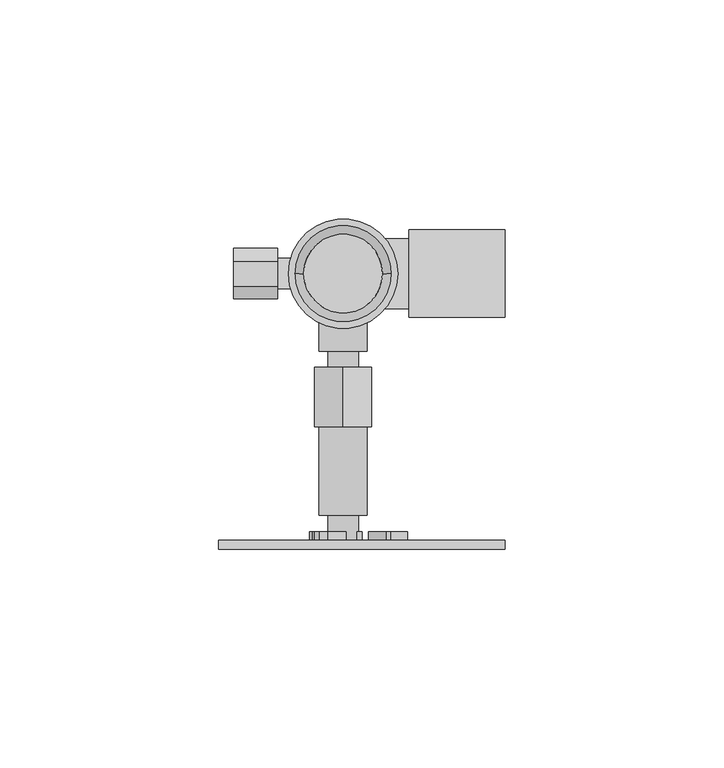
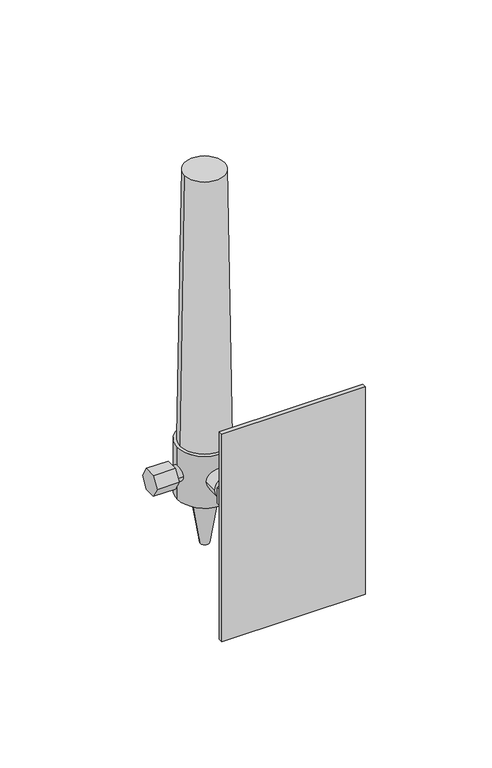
"""IFC4 building model written with IfcOpenShell, lengths in millimetres: proxy geometry, BIMHealth-Flowmeter_Air-LOD2A-v1 : BIMHealth-Flowmeter_Air-LOD2A-v1."""

import ifcopenshell
import ifcopenshell.guid

model = None  # the IFC model being written
_history = None  # IfcOwnerHistory: only IFC2X3 demands one
_inside = {}  # id of a spatial element -> (the spatial element, [elements in it])
_under = {}  # id of a project, library or spatial element -> (it, [spatial elements below it])
_declared = {}  # id of a project -> (the project, [libraries it declares])
_typed = {}  # id of a type object -> (the type object, [elements of that type])
_made_of = {}  # id of a material, layer set ... -> (it, [elements and type objects made of it])


def new_model(schema):
    """Start an empty IFC model of exactly this schema.

    Asked for "IFC4X3", IfcOpenShell would pick the latest addendum, in which some entities
    have other attributes; the version numbers below select the first issue.
    IFC2X3 requires an IfcOwnerHistory on every rooted entity: one is made here for all.
    """
    global model, _history
    if schema == "IFC4X3":
        model = ifcopenshell.file(schema_version=(4, 3, 0, 0))
    else:
        model = ifcopenshell.file(schema=schema)
    _inside.clear()
    _under.clear()
    _declared.clear()
    _typed.clear()
    _made_of.clear()
    _history = None
    if model.schema == "IFC2X3":
        org = make("IfcOrganization", Name="unknown")
        user = make(
            "IfcPersonAndOrganization",
            ThePerson=make("IfcPerson", FamilyName="unknown"),
            TheOrganization=org,
        )
        app = make(
            "IfcApplication",
            ApplicationDeveloper=org,
            Version="unknown",
            ApplicationFullName="unknown",
            ApplicationIdentifier="unknown",
        )
        _history = make(
            "IfcOwnerHistory",
            OwningUser=user,
            OwningApplication=app,
            ChangeAction="ADDED",
            CreationDate=0,
        )
    return model


def make(cls, **values):
    """One entity of the class cls with the attributes given. An attribute that is None is left unset."""
    return model.create_entity(
        cls, **{name: value for name, value in values.items() if value is not None}
    )


def rooted(cls, **values):
    """An entity with a GlobalId (a new one), such as an element, a storey or a relation."""
    return make(cls, GlobalId=ifcopenshell.guid.new(), OwnerHistory=_history, **values)


def si_unit(unit_type, name, prefix=None):
    """IfcSIUnit, for example si_unit("LENGTHUNIT", "METRE", prefix="MILLI")."""
    return make("IfcSIUnit", UnitType=unit_type, Prefix=prefix, Name=name)


def assignment(units):
    """IfcUnitAssignment: the units of a project."""
    return None if units is None else make("IfcUnitAssignment", Units=units)


def point(xyz):
    """IfcCartesianPoint."""
    return None if xyz is None else make("IfcCartesianPoint", Coordinates=xyz)


def direction(xyz):
    """IfcDirection."""
    return None if xyz is None else make("IfcDirection", DirectionRatios=xyz)


def frame(location, z_axis=None, x_axis=None):
    """IfcAxis2Placement3D, a coordinate frame: its origin and axes. An axis left out is left unset."""
    return make(
        "IfcAxis2Placement3D",
        Location=point(location),
        Axis=direction(z_axis),
        RefDirection=direction(x_axis),
    )


def frame_2d(location, x_axis=None):
    """IfcAxis2Placement2D, a coordinate frame in the plane: its origin and x axis."""
    return make(
        "IfcAxis2Placement2D", Location=point(location), RefDirection=direction(x_axis)
    )


def origin():
    """The frame at (0, 0, 0) with its axes left unset."""
    return frame((0.0, 0.0, 0.0))


def origin_2d():
    """The frame at (0, 0) in the plane with its x axis left unset."""
    return frame_2d((0.0, 0.0))


def place(relative_to, where):
    """IfcLocalPlacement: puts the frame where relative to a parent placement (None: the world)."""
    return make(
        "IfcLocalPlacement", PlacementRelTo=relative_to, RelativePlacement=where
    )


def context(
    kind, dimensions, precision=None, world=None, true_north=None, identifier=None
):
    """IfcGeometricRepresentationContext, for example the 3D "Model" context."""
    return make(
        "IfcGeometricRepresentationContext",
        ContextIdentifier=identifier,
        ContextType=kind,
        CoordinateSpaceDimension=dimensions,
        Precision=precision,
        WorldCoordinateSystem=world,
        TrueNorth=true_north,
    )


def project(units=None, contexts=None):
    """IfcProject with its units and contexts."""
    return rooted(
        "IfcProject",
        Name="project",
        RepresentationContexts=contexts,
        UnitsInContext=assignment(units),
    )


def spatial(cls, under=None, at=None, **own):
    """A site, building, storey or space (cls), placed at a placement, below another one or the project."""
    s = rooted(cls, ObjectPlacement=at, **own)
    if under is not None:
        _under.setdefault(under.id(), (under, []))[1].append(s)
    return s


def polyline(points):
    """IfcPolyline through the points."""
    return make("IfcPolyline", Points=[point(p) for p in points])


def circle_curve(where, radius):
    """IfcCircle in the frame where."""
    return make("IfcCircle", Position=where, Radius=radius)


def trimmed(basis, trim1, trim2, sense, master):
    """IfcTrimmedCurve: the piece of a basis curve between two trims."""
    return make(
        "IfcTrimmedCurve",
        BasisCurve=basis,
        Trim1=trim1,
        Trim2=trim2,
        SenseAgreement=sense,
        MasterRepresentation=master,
    )


def segment(curve, same_sense, transition):
    """IfcCompositeCurveSegment."""
    return make(
        "IfcCompositeCurveSegment",
        Transition=transition,
        SameSense=same_sense,
        ParentCurve=curve,
    )


def composite_curve(segments, self_intersect=None):
    """IfcCompositeCurve: segments joined end to end."""
    return make("IfcCompositeCurve", Segments=segments, SelfIntersect=self_intersect)


def outline(outer, holes=None, kind="AREA"):
    """IfcArbitraryClosedProfileDef: a profile drawn as a closed curve; with holes, ...WithVoids."""
    if holes is None:
        return make("IfcArbitraryClosedProfileDef", ProfileType=kind, OuterCurve=outer)
    return make(
        "IfcArbitraryProfileDefWithVoids",
        ProfileType=kind,
        OuterCurve=outer,
        InnerCurves=holes,
    )


def extrude(swept, where, along, depth):
    """IfcExtrudedAreaSolid: the profile swept, set in the frame where, extruded along a direction by depth."""
    return make(
        "IfcExtrudedAreaSolid",
        SweptArea=swept,
        Position=where,
        ExtrudedDirection=direction(along),
        Depth=depth,
    )


def shape(context_of_items, identifier, shape_type, items):
    """IfcShapeRepresentation: the items that make up one representation, for example the "Body"."""
    return make(
        "IfcShapeRepresentation",
        ContextOfItems=context_of_items,
        RepresentationIdentifier=identifier,
        RepresentationType=shape_type,
        Items=items,
    )


def source(mapping_origin, context_of_items, identifier, shape_type, items):
    """IfcRepresentationMap: a shape defined once, which mapped items show again and again."""
    return make(
        "IfcRepresentationMap",
        MappingOrigin=mapping_origin,
        MappedRepresentation=shape(context_of_items, identifier, shape_type, items),
    )


def transform(
    local_origin,
    x_axis=None,
    y_axis=None,
    z_axis=None,
    scale=None,
    scale2=None,
    scale3=None,
    uniform=True,
):
    """IfcCartesianTransformationOperator3D, or its non-uniform kind. x_axis, y_axis, z_axis: its Axis1, 2, 3."""
    if uniform:
        return make(
            "IfcCartesianTransformationOperator3D",
            Axis1=direction(x_axis),
            Axis2=direction(y_axis),
            LocalOrigin=point(local_origin),
            Scale=scale,
            Axis3=direction(z_axis),
        )
    return make(
        "IfcCartesianTransformationOperator3DnonUniform",
        Axis1=direction(x_axis),
        Axis2=direction(y_axis),
        LocalOrigin=point(local_origin),
        Scale=scale,
        Axis3=direction(z_axis),
        Scale2=scale2,
        Scale3=scale3,
    )


def mapped(mapping_source, mapping_target):
    """IfcMappedItem: shows the shape of a source again, moved by a transform."""
    return make(
        "IfcMappedItem", MappingSource=mapping_source, MappingTarget=mapping_target
    )


def made_of(thing, what):
    """Note that an element or type object is made of a material, layer set ...; save() writes the relation."""
    if what is not None:
        _made_of.setdefault(what.id(), (what, []))[1].append(thing)
    return thing


def element(
    cls,
    number,
    at=None,
    inside=None,
    cuts=None,
    type_object=None,
    material=None,
    context=None,
    identifier="Body",
    shape_type=None,
    held_by="IfcProductDefinitionShape",
    body=None,
    shapes=None,
    **own,
):
    """One element of the class cls, such as IfcWall. Its Tag is "e" and its number.

    at: its placement. inside: the storey or other place that contains it. cuts: it is an
    opening in that element (IfcRelVoidsElement). A single representation is given by context,
    identifier, shape_type and body (its items); several are given by shapes. held_by: the class
    of the entity that holds the representations. save() writes the other relations.
    """
    e = rooted(cls, Tag="e%d" % number, ObjectPlacement=at, **own)
    if body is not None:
        shapes = [shape(context, identifier, shape_type, body)]
    if shapes is not None:
        e.Representation = make(held_by, Representations=shapes)
    if inside is not None:
        _inside.setdefault(inside.id(), (inside, []))[1].append(e)
    if cuts is not None:
        rooted(
            "IfcRelVoidsElement", RelatingBuildingElement=cuts, RelatedOpeningElement=e
        )
    if type_object is not None:
        _typed.setdefault(type_object.id(), (type_object, []))[1].append(e)
    return made_of(e, material)


def aggregate(whole, parts):
    """IfcRelAggregates: a whole, such as a stair, and the parts it consists of."""
    return rooted("IfcRelAggregates", RelatingObject=whole, RelatedObjects=parts)


def save(model, path):
    """Write the relations noted so far, then the file.

    IfcRelAggregates (storeys below a building ...), IfcRelContainedInSpatialStructure (elements
    in a storey), IfcRelDefinesByType, IfcRelAssociatesMaterial and IfcRelDeclares: one each for
    every whole, place, type object, material and project.
    """
    for whole, parts in _under.values():
        aggregate(whole, parts)
    for where, things in _inside.values():
        rooted(
            "IfcRelContainedInSpatialStructure",
            RelatedElements=things,
            RelatingStructure=where,
        )
    for kind, things in _typed.values():
        rooted("IfcRelDefinesByType", RelatedObjects=things, RelatingType=kind)
    for what, things in _made_of.values():
        rooted("IfcRelAssociatesMaterial", RelatedObjects=things, RelatingMaterial=what)
    for by, libraries in _declared.values():
        rooted("IfcRelDeclares", RelatingContext=by, RelatedDefinitions=libraries)
    model.write(path)


def plane_surface(at):
    """IfcPlane: the flat surface through the origin of the frame at, square to its z axis."""
    return make("IfcPlane", Position=at)


def cylinder_surface(at, radius):
    """IfcCylindricalSurface: all points at the distance radius from the z axis of the frame at."""
    return make("IfcCylindricalSurface", Position=at, Radius=radius)


def revolved_surface(curve, axis_point, axis_direction):
    """IfcSurfaceOfRevolution: the curve turned about the line through axis_point along axis_direction."""
    return make(
        "IfcSurfaceOfRevolution",
        SweptCurve=make("IfcArbitraryOpenProfileDef", ProfileType="CURVE", Curve=curve),
        AxisPosition=make("IfcAxis1Placement", Location=point(axis_point), Axis=direction(axis_direction)),
    )


def advanced_brep(points, edges, surfaces, faces):
    """IfcAdvancedBrep: a solid bounded by faces that lie on surfaces and meet in shared edges.

    An edge is (start, end): straight between two places in points (the first is 0);
    or (start, end, curve); or (start, end, curve, False) where it runs against its curve.
    A face is (place in surfaces, loops), or (place, loops, False) where it looks against
    its surface's normal. A loop lists edges by number (the first is 1), with a minus sign
    where the edge is run from its end to its start. The first loop is the outer one.
    """
    corners = [point(p) for p in points]
    vertices = [make("IfcVertexPoint", VertexGeometry=c) for c in corners]
    made = []
    for start, end, *more in edges:
        made.append(
            make(
                "IfcEdgeCurve",
                EdgeStart=vertices[start],
                EdgeEnd=vertices[end],
                EdgeGeometry=more[0] if more else make("IfcPolyline", Points=[corners[start], corners[end]]),
                SameSense=more[1] if len(more) > 1 else True,
            )
        )
    hull = []
    for where, loops, *sense in faces:
        bounds = []
        for j, loop in enumerate(loops):
            ring = [make("IfcOrientedEdge", EdgeElement=made[abs(k) - 1], Orientation=k > 0) for k in loop]
            bounds.append(
                make(
                    "IfcFaceOuterBound" if j == 0 else "IfcFaceBound",
                    Bound=make("IfcEdgeLoop", EdgeList=ring),
                    Orientation=True,
                )
            )
        hull.append(make("IfcAdvancedFace", Bounds=bounds, FaceSurface=surfaces[where], SameSense=sense[0] if sense else True))
    return make("IfcAdvancedBrep", Outer=make("IfcClosedShell", CfsFaces=hull))


def generic_models_1eb8e886(model_context):
    return source(origin(), model_context, "Body", "SolidModel", [
        extrude(outline(polyline([(1256.5400955, 14.7414002), (1266.3862493, 10.8111118), (1266.3862493, 9.7630348), (1256.5400955, 5.8351502), (1256.5400955, 7.135631), (1259.6170185, 8.260631), (1259.6170185, 12.3183233), (1256.5400955, 13.4433233), (1256.5400955, 14.7414002)]), holes=[polyline([(1260.8477878, 11.8664002), (1260.8477878, 8.7101502), (1263.2684608, 9.5995733), (1265.1554801, 10.2894771), (1263.4799993, 10.9024579), (1260.8477878, 11.8664002)])]), frame((0.0, -60.9451551, 0.0), z_axis=(0.0, 1.0, 0.0), x_axis=(0.0, 0.0, 1.0)), (0.0, 0.0, 1.0), 2.0),
        extrude(outline(polyline([(3.135631, -58.9451551), (4.3664002, -58.9451551), (4.3664002, -60.9451551), (3.135631, -60.9451551), (3.135631, -58.9451551)])), frame((0.0, 0.0, 1256.5400955), z_axis=(0.0, 0.0, 1.0), x_axis=(1.0, 0.0, 0.0)), (0.0, 0.0, 1.0), 9.8461538),
        extrude(outline(polyline([(1256.5400955, 0.6740925), (1266.3862493, 0.6740925), (1266.3862493, -3.5686959), (1266.1206243, -5.5386479), (1265.1807205, -6.6155709), (1263.6915378, -7.0182152), (1261.9174993, -6.3511479), (1261.0016339, -4.2898498), (1260.4751916, -4.989369), (1259.2083647, -5.9869652), (1256.5400955, -7.6287921), (1256.5400955, -6.1985036), (1258.5809608, -4.9172536), (1259.9319224, -3.9917729), (1260.5701435, -3.3415325), (1260.8477878, -0.5566767), (1256.5400955, -0.5566767), (1256.5400955, 0.6740925)]), holes=[polyline([(1262.078557, -0.5566767), (1262.078557, -3.3114844), (1262.2528358, -4.7165325), (1262.8105282, -5.5146094), (1263.6458647, -5.7874459), (1264.7299993, -5.2670132), (1265.1554801, -3.6215806), (1265.1554801, -0.5566767), (1262.078557, -0.5566767)])]), frame((0.0, -60.9451551, 0.0), z_axis=(0.0, 1.0, 0.0), x_axis=(0.0, 0.0, 1.0)), (0.0, 0.0, 1.0), 2.0),
        extrude(outline(polyline([(37.0, -62.9451551), (-28.4571603, -62.9451551), (-28.4571603, -60.9451551), (37.0, -60.9451551), (37.0, -62.9451551)])), frame((0.0, 0.0, 1175.0), z_axis=(0.0, 0.0, 1.0), x_axis=(1.0, 0.0, 0.0)), (0.0, 0.0, 1.0), 100.0),
        advanced_brep(
        [(-15.0, -5.7735027, 1212.5), (-15.0, -2.8867513, 1207.5), (-15.0, 2.8867513, 1207.5), (-15.0, 5.7735027, 1212.5), (-15.0, 2.8867513, 1217.5), (-15.0, -2.8867513, 1217.5), (-15.0, 3.5, 1212.5), (-15.0, -3.5, 1212.5), (-25.0, -5.7735027, 1212.5), (-25.0, -2.8867513, 1217.5), (-25.0, 2.8867513, 1217.5), (-25.0, 5.7735027, 1212.5), (-25.0, 2.8867513, 1207.5), (-25.0, -2.8867513, 1207.5), (0.0, -3.5, 1212.5), (0.0, 3.5, 1212.5)],
        [
            (0, 1),
            (1, 2),
            (2, 3),
            (3, 4),
            (4, 5),
            (5, 0),
            (6, 7, circle_curve(frame((-15.0, 0.0, 1212.5), z_axis=(-1.0, 0.0, 0.0), x_axis=(0.0, 1.0, 0.0)), 3.5)),
            (7, 6, circle_curve(frame((-15.0, 0.0, 1212.5), z_axis=(-1.0, 0.0, 0.0), x_axis=(0.0, 1.0, 0.0)), 3.5)),
            (8, 9),
            (9, 10),
            (10, 11),
            (11, 12),
            (12, 13),
            (13, 8),
            (0, 8),
            (13, 1),
            (12, 2),
            (11, 3),
            (10, 4),
            (9, 5),
            (14, 15, circle_curve(frame((0.0, 0.0, 1212.5), z_axis=(1.0, 0.0, 0.0), x_axis=(0.0, 1.0, 0.0)), 3.5)),
            (15, 14, circle_curve(frame((0.0, 0.0, 1212.5), z_axis=(1.0, 0.0, 0.0), x_axis=(0.0, 1.0, 0.0)), 3.5)),
            (14, 7),
            (6, 15),
        ],
        [
            plane_surface(frame((-15.0, -5.7735027, 1212.5), z_axis=(1.0000000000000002, 0.0, 0.0), x_axis=(0.0, 0.5000000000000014, -0.8660254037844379))),
            plane_surface(frame((-25.0, -5.7735027, 1212.5), z_axis=(-1.0000000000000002, 0.0, 0.0), x_axis=(0.0, -0.5000000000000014, 0.8660254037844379))),
            plane_surface(frame((-15.0, -5.7735027, 1212.5), z_axis=(0.0, -0.8660254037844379, -0.5000000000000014), x_axis=(-1.0, 0.0, 0.0))),
            plane_surface(frame((-15.0, -2.8867513, 1207.5), z_axis=(0.0, 0.0, -1.0), x_axis=(-1.0, 0.0, 0.0))),
            plane_surface(frame((-15.0, 2.8867513, 1207.5), z_axis=(0.0, 0.8660254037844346, -0.5000000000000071), x_axis=(-1.0, 0.0, 0.0))),
            plane_surface(frame((-15.0, 5.7735027, 1212.5), z_axis=(0.0, 0.8660254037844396, 0.4999999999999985), x_axis=(-1.0, 0.0, 0.0))),
            plane_surface(frame((-15.0, 2.8867513, 1217.5), z_axis=(0.0, 0.0, 1.0), x_axis=(-1.0, 0.0, 0.0))),
            plane_surface(frame((-15.0, -2.8867513, 1217.5), z_axis=(0.0, -0.8660254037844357, 0.5000000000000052), x_axis=(-1.0, 0.0, 0.0))),
            plane_surface(frame((0.0, 3.5, 1212.5), z_axis=(1.0, 0.0, 0.0), x_axis=(0.0, 0.0, 1.0))),
            cylinder_surface(frame((-15.0, 0.0, 1212.5), z_axis=(1.0, 0.0, 0.0), x_axis=(0.0, 1.0, 0.0)), 3.5),
        ],
        [
            (0, [[1, 2, 3, 4, 5, 6], [7, 8]]),
            (1, [[9, 10, 11, 12, 13, 14]]),
            (2, [[-1, 15, -14, 16]]),
            (3, [[-2, -16, -13, 17]]),
            (4, [[-3, -17, -12, 18]]),
            (5, [[-4, -18, -11, 19]]),
            (6, [[-5, -19, -10, 20]]),
            (7, [[-6, -20, -9, -15]]),
            (8, [[21, 22]]),
            (9, [[-21, 23, -7, 24]]),
            (9, [[-22, -24, -8, -23]]),
        ],
    ),
        advanced_brep(
        [(3.5, -60.9451551, 1212.5), (-3.5, -60.9451551, 1212.5), (3.5, -55.2141436, 1212.5), (-3.5, -55.2141436, 1212.5), (5.5, -55.2141436, 1212.5), (-5.5, -55.2141436, 1212.5), (5.5, -34.9541654, 1212.5), (-5.5, -34.9541654, 1212.5), (-6.4951905, -34.9541654, 1216.25), (-6.4951905, -34.9541654, 1208.75), (0.0, -34.9541654, 1205.0), (6.4951905, -34.9541654, 1208.75), (6.4951905, -34.9541654, 1216.25), (0.0, -34.9541654, 1220.0), (-6.4951905, -21.3523267, 1216.25), (0.0, -21.3523267, 1220.0), (6.4951905, -21.3523267, 1216.25), (6.4951905, -21.3523267, 1208.75), (0.0, -21.3523267, 1205.0), (-6.4951905, -21.3523267, 1208.75), (3.5, -21.3523267, 1212.5), (-3.5, -21.3523267, 1212.5), (3.5, -17.7343884, 1212.5), (-3.5, -17.7343884, 1212.5), (5.5, -17.7343884, 1212.5), (-5.5, -17.7343884, 1212.5), (5.5, 0.0, 1212.5), (-5.5, 0.0, 1212.5)],
        [
            (0, 1, circle_curve(frame((0.0, -60.9451551, 1212.5), z_axis=(0.0, -1.0, 0.0), x_axis=(-1.0, 0.0, 0.0)), 3.5)),
            (1, 0, circle_curve(frame((0.0, -60.9451551, 1212.5), z_axis=(0.0, -1.0, 0.0), x_axis=(-1.0, 0.0, 0.0)), 3.5)),
            (0, 2),
            (2, 3, circle_curve(frame((0.0, -55.2141436, 1212.5), z_axis=(0.0, -1.0, 0.0), x_axis=(-1.0, 0.0, 0.0)), 3.5)),
            (3, 1),
            (3, 2, circle_curve(frame((0.0, -55.2141436, 1212.5), z_axis=(0.0, -1.0, 0.0), x_axis=(-1.0, 0.0, 0.0)), 3.5)),
            (4, 5, circle_curve(frame((0.0, -55.2141436, 1212.5), z_axis=(0.0, -1.0, 0.0), x_axis=(-1.0, 0.0, 0.0)), 5.5)),
            (5, 4, circle_curve(frame((0.0, -55.2141436, 1212.5), z_axis=(0.0, -1.0, 0.0), x_axis=(-1.0, 0.0, 0.0)), 5.5)),
            (4, 6),
            (6, 7, circle_curve(frame((0.0, -34.9541654, 1212.5), z_axis=(0.0, -1.0, 0.0), x_axis=(-1.0, 0.0, 0.0)), 5.5)),
            (7, 5),
            (7, 6, circle_curve(frame((0.0, -34.9541654, 1212.5), z_axis=(0.0, -1.0, 0.0), x_axis=(-1.0, 0.0, 0.0)), 5.5)),
            (8, 9),
            (9, 10),
            (10, 11),
            (11, 12),
            (12, 13),
            (13, 8),
            (14, 15),
            (15, 16),
            (16, 17),
            (17, 18),
            (18, 19),
            (19, 14),
            (20, 21, circle_curve(frame((0.0, -21.3523267, 1212.5), z_axis=(0.0, -1.0, 0.0), x_axis=(-1.0, 0.0, 0.0)), 3.5)),
            (21, 20, circle_curve(frame((0.0, -21.3523267, 1212.5), z_axis=(0.0, -1.0, 0.0), x_axis=(-1.0, 0.0, 0.0)), 3.5)),
            (8, 14),
            (19, 9),
            (18, 10),
            (17, 11),
            (16, 12),
            (15, 13),
            (20, 22),
            (22, 23, circle_curve(frame((0.0, -17.7343884, 1212.5), z_axis=(0.0, -1.0, 0.0), x_axis=(-1.0, 0.0, 0.0)), 3.5)),
            (23, 21),
            (23, 22, circle_curve(frame((0.0, -17.7343884, 1212.5), z_axis=(0.0, -1.0, 0.0), x_axis=(-1.0, 0.0, 0.0)), 3.5)),
            (24, 25, circle_curve(frame((0.0, -17.7343884, 1212.5), z_axis=(0.0, -1.0, 0.0), x_axis=(-1.0, 0.0, 0.0)), 5.5)),
            (25, 24, circle_curve(frame((0.0, -17.7343884, 1212.5), z_axis=(0.0, -1.0, 0.0), x_axis=(-1.0, 0.0, 0.0)), 5.5)),
            (26, 27, circle_curve(frame((0.0, 0.0, 1212.5), z_axis=(0.0, 1.0, 0.0), x_axis=(-1.0, 0.0, 0.0)), 5.5)),
            (27, 26, circle_curve(frame((0.0, 0.0, 1212.5), z_axis=(0.0, 1.0, 0.0), x_axis=(-1.0, 0.0, 0.0)), 5.5)),
            (24, 26),
            (27, 25),
        ],
        [
            plane_surface(frame((-3.5, -60.9451551, 1212.5), z_axis=(0.0, -1.0, 0.0), x_axis=(0.0, 0.0, -1.0))),
            cylinder_surface(frame((0.0, -55.2141436, 1212.5), z_axis=(0.0, -1.0, 0.0), x_axis=(-1.0, 0.0, 0.0)), 3.5),
            plane_surface(frame((-5.5, -55.2141436, 1212.5), z_axis=(0.0, -1.0, 0.0), x_axis=(0.0, 0.0, -1.0))),
            cylinder_surface(frame((0.0, -34.9541654, 1212.5), z_axis=(0.0, -1.0, 0.0), x_axis=(-1.0, 0.0, 0.0)), 5.5),
            plane_surface(frame((-6.4951905, -34.9541654, 1216.25), z_axis=(0.0, -1.0, 0.0), x_axis=(0.0, 0.0, -1.0))),
            plane_surface(frame((-6.4951905, -21.3523267, 1216.25), z_axis=(0.0, 1.0, 0.0), x_axis=(0.0, 0.0, 1.0))),
            plane_surface(frame((-6.4951905, -34.9541654, 1216.25), z_axis=(-1.0, 0.0, 0.0), x_axis=(0.0, 1.0, 0.0))),
            plane_surface(frame((-6.4951905, -34.9541654, 1208.75), z_axis=(-0.5000000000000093, 0.0, -0.8660254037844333), x_axis=(0.0, 1.0, 0.0))),
            plane_surface(frame((0.0, -34.9541654, 1205.0), z_axis=(0.4999999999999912, 0.0, -0.8660254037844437), x_axis=(0.0, 1.0, 0.0))),
            plane_surface(frame((6.4951905, -34.9541654, 1208.75), z_axis=(1.0, 0.0, 0.0), x_axis=(0.0, 1.0, 0.0))),
            plane_surface(frame((6.4951905, -34.9541654, 1216.25), z_axis=(0.5000000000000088, 0.0, 0.8660254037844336), x_axis=(0.0, 1.0, 0.0))),
            plane_surface(frame((0.0, -34.9541654, 1220.0), z_axis=(-0.49999999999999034, 0.0, 0.8660254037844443), x_axis=(0.0, 1.0, 0.0))),
            cylinder_surface(frame((0.0, -17.7343884, 1212.5), z_axis=(0.0, -1.0, 0.0), x_axis=(-1.0, 0.0, 0.0)), 3.5),
            plane_surface(frame((-5.5, -17.7343884, 1212.5), z_axis=(0.0, -1.0, 0.0), x_axis=(0.0, 0.0, -1.0))),
            plane_surface(frame((-5.5, 0.0, 1212.5), z_axis=(0.0, 1.0, 0.0), x_axis=(0.0, 0.0, 1.0))),
            cylinder_surface(frame((0.0, 0.0, 1212.5), z_axis=(0.0, -1.0, 0.0), x_axis=(-1.0, 0.0, 0.0)), 5.5),
        ],
        [
            (0, [[1, 2]]),
            (1, [[-1, 3, 4, 5]]),
            (1, [[-2, -5, 6, -3]]),
            (2, [[7, 8], [-4, -6]]),
            (3, [[-7, 9, 10, 11]]),
            (3, [[-8, -11, 12, -9]]),
            (4, [[13, 14, 15, 16, 17, 18], [-10, -12]]),
            (5, [[19, 20, 21, 22, 23, 24], [25, 26]]),
            (6, [[-13, 27, -24, 28]]),
            (7, [[-14, -28, -23, 29]]),
            (8, [[-15, -29, -22, 30]]),
            (9, [[-16, -30, -21, 31]]),
            (10, [[-17, -31, -20, 32]]),
            (11, [[-18, -32, -19, -27]]),
            (12, [[33, 34, 35, -25]]),
            (12, [[-33, -26, -35, 36]]),
            (13, [[37, 38], [-34, -36]]),
            (14, [[39, 40]]),
            (15, [[-37, 41, -40, 42]]),
            (15, [[-38, -42, -39, -41]]),
        ],
    ),
        advanced_brep(
        [(-9.0, 0.0, 1355.0), (9.0, 0.0, 1355.0), (-11.0, 0.0, 1225.0), (11.0, 0.0, 1225.0)],
        [
            (0, 1, circle_curve(frame((0.0, 0.0, 1355.0), z_axis=(0.0, 0.0, 1.0), x_axis=(-1.0, 0.0, 0.0)), 9.0)),
            (1, 0, circle_curve(frame((0.0, 0.0, 1355.0), z_axis=(0.0, 0.0, 1.0), x_axis=(1.0, 0.0, 0.0)), 9.0)),
            (2, 3, circle_curve(frame((0.0, 0.0, 1225.0), z_axis=(0.0, 0.0, -1.0), x_axis=(1.0, 0.0, 0.0)), 11.0)),
            (3, 2, circle_curve(frame((0.0, 0.0, 1225.0), z_axis=(0.0, 0.0, -1.0), x_axis=(-1.0, 0.0, 0.0)), 11.0)),
            (3, 1),
            (0, 2),
        ],
        [
            plane_surface(frame((0.0, 0.0, 1355.0), z_axis=(0.0, 0.0, 1.0), x_axis=(0.0, -1.0, 0.0))),
            plane_surface(frame((0.0, 0.0, 1225.0), z_axis=(0.0, 0.0, -1.0), x_axis=(0.0, -1.0, 0.0))),
            revolved_surface(polyline([(-9.0, 0.0, 1355.0), (-11.0, 0.0, 1225.0)]), (0.0, 0.0, 1940.0), (0.0, 0.0, -1.0)),
            revolved_surface(polyline([(9.0, 0.0, 1355.0), (11.0, 0.0, 1225.0)]), (0.0, 0.0, 1940.0), (0.0, 0.0, -1.0)),
        ],
        [
            (0, [[1, 2]]),
            (1, [[3, 4]]),
            (2, [[-4, 5, -1, 6]]),
            (3, [[-3, -6, -2, -5]]),
        ],
    ),
        extrude(outline(composite_curve([segment(trimmed(circle_curve(frame_2d((0.0, 1212.5)), 8.0), [point((8.0, 1212.5))], [point((-8.0, 1212.5))], False, "CARTESIAN"), True, "CONTINUOUS"), segment(trimmed(circle_curve(frame_2d((0.0, 1212.5)), 8.0), [point((-8.0, 1212.5))], [point((8.0, 1212.5))], False, "CARTESIAN"), True, "CONTINUOUS")], self_intersect=False)), frame((0.0, 0.0, 0.0), z_axis=(1.0, 0.0, 0.0), x_axis=(0.0, 1.0, 0.0)), (0.0, 0.0, 1.0), 15.0),
        extrude(outline(composite_curve([segment(trimmed(circle_curve(frame_2d((0.0, 1212.5)), 10.0), [point((10.0, 1212.5))], [point((-10.0, 1212.5))], False, "CARTESIAN"), True, "CONTINUOUS"), segment(trimmed(circle_curve(frame_2d((0.0, 1212.5)), 10.0), [point((-10.0, 1212.5))], [point((10.0, 1212.5))], False, "CARTESIAN"), True, "CONTINUOUS")], self_intersect=False)), frame((15.0, 0.0, 0.0), z_axis=(1.0, 0.0, 0.0), x_axis=(0.0, 1.0, 0.0)), (0.0, 0.0, 1.0), 22.0),
        advanced_brep(
        [(-6.0, 0.0, 1200.0), (6.0, 0.0, 1200.0), (-2.0, 0.0, 1175.0), (2.0, 0.0, 1175.0)],
        [
            (0, 1, circle_curve(frame((0.0, 0.0, 1200.0), z_axis=(0.0, 0.0, 1.0), x_axis=(-1.0, 0.0, 0.0)), 6.0)),
            (1, 0, circle_curve(frame((0.0, 0.0, 1200.0), z_axis=(0.0, 0.0, 1.0), x_axis=(1.0, 0.0, 0.0)), 6.0)),
            (2, 3, circle_curve(frame((0.0, 0.0, 1175.0), z_axis=(0.0, 0.0, -1.0), x_axis=(1.0, 0.0, 0.0)), 2.0)),
            (3, 2, circle_curve(frame((0.0, 0.0, 1175.0), z_axis=(0.0, 0.0, -1.0), x_axis=(-1.0, 0.0, 0.0)), 2.0)),
            (3, 1),
            (0, 2),
        ],
        [
            plane_surface(frame((0.0, 0.0, 1200.0), z_axis=(0.0, 0.0, 1.0), x_axis=(0.0, -1.0, 0.0))),
            plane_surface(frame((0.0, 0.0, 1175.0), z_axis=(0.0, 0.0, -1.0), x_axis=(0.0, -1.0, 0.0))),
            revolved_surface(polyline([(2.0, 0.0, 1175.0), (6.0, 0.0, 1200.0)]), (0.0, 0.0, 1162.5), (0.0, 0.0, 1.0)),
            revolved_surface(polyline([(-2.0, 0.0, 1175.0), (-6.0, 0.0, 1200.0)]), (0.0, 0.0, 1162.5), (0.0, 0.0, 1.0)),
        ],
        [
            (0, [[1, 2]]),
            (1, [[3, 4]]),
            (2, [[-4, 5, -1, 6]]),
            (3, [[-3, -6, -2, -5]]),
        ],
    ),
        extrude(outline(composite_curve([segment(trimmed(circle_curve(origin_2d(), 12.5), [point((-12.5, 0.0))], [point((12.5, 0.0))], False, "CARTESIAN"), True, "CONTINUOUS"), segment(trimmed(circle_curve(origin_2d(), 12.5), [point((12.5, 0.0))], [point((-12.5, 0.0))], False, "CARTESIAN"), True, "CONTINUOUS")], self_intersect=False)), frame((0.0, 0.0, 1200.0), z_axis=(0.0, 0.0, 1.0), x_axis=(1.0, 0.0, 0.0)), (0.0, 0.0, 1.0), 25.0),
    ])


if __name__ == "__main__":
    model = new_model("IFC4")
    model_context = context("Model", 3, world=origin())
    ifc_project = project(units=[si_unit("LENGTHUNIT", "METRE", prefix="MILLI")], contexts=[model_context])
    site = spatial("IfcSite", under=ifc_project)
    building = spatial("IfcBuilding", under=site)
    placement = place(None, origin())
    generic_models_shape = generic_models_1eb8e886(model_context)
    element("IfcBuildingElementProxy", 1, Name="BIMHealth-Flowmeter_Air-LOD2A-v1 : BIMHealth-Flowmeter_Air-LOD2A-v1", ObjectType="BIMHealth-Flowmeter_Air-LOD2A-v1 : BIMHealth-Flowmeter_Air-LOD2A-v1", at=placement, inside=building, context=model_context, shape_type="MappedRepresentation", body=[
        mapped(generic_models_shape, transform((0.0, 0.0, 0.0), x_axis=(1.0, 0.0, 0.0), y_axis=(0.0, 1.0, 0.0), z_axis=(0.0, 0.0, 1.0))),
    ])
    save(model, "model.ifc")
